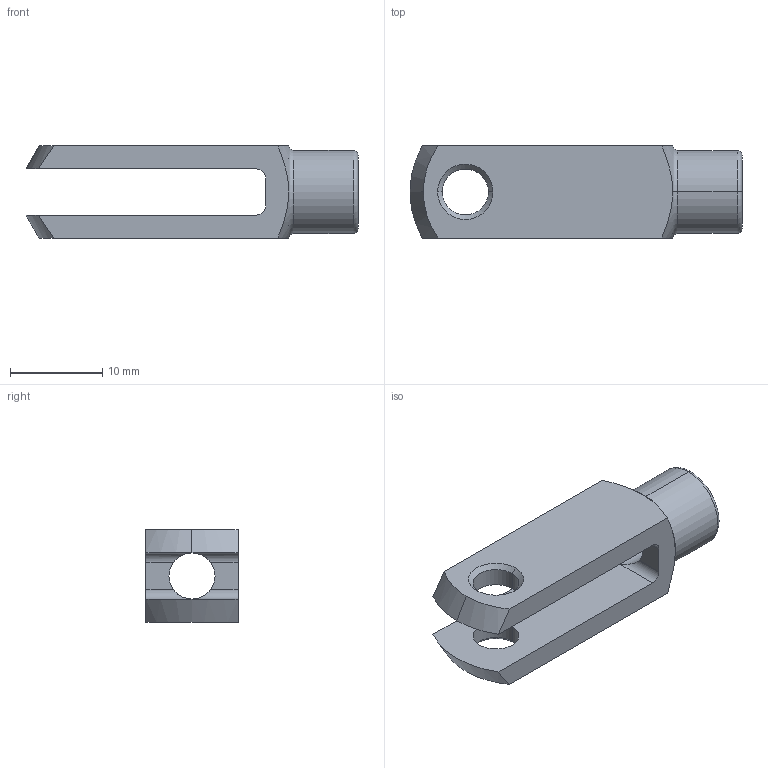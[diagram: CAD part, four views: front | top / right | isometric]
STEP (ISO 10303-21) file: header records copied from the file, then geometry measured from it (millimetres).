
FILE_DESCRIPTION (( 'STEP AP203' ), '1' );
FILE_NAME ('65636.W0052.step', '2014-01-17T13:10:56', ( 'User' ), ( '' ), 'SwSTEP 2.0', 'SolidWorks 2009', '' );
FILE_SCHEMA (( 'CONFIG_CONTROL_DESIGN' ));
Length unit declared in the file: millimetre
Products named in the file (1): 65636.W0052
Bounding box: 36 x 10 x 10 mm (x, y, z)
Volume: 1663.2 mm3; surface area: 1827.6 mm2
Topology: 1 solids, 1 shells, 38 faces, 91 edges, 54 vertices
Faces by surface type: cone 13, cylinder 12, plane 9, torus 4
Entity records: 1266 total; most frequent: CARTESIAN_POINT 296, DIRECTION 195, ORIENTED_EDGE 182, EDGE_CURVE 91, AXIS2_PLACEMENT_3D 81, VERTEX_POINT 54, EDGE_LOOP 43, CIRCLE 42
